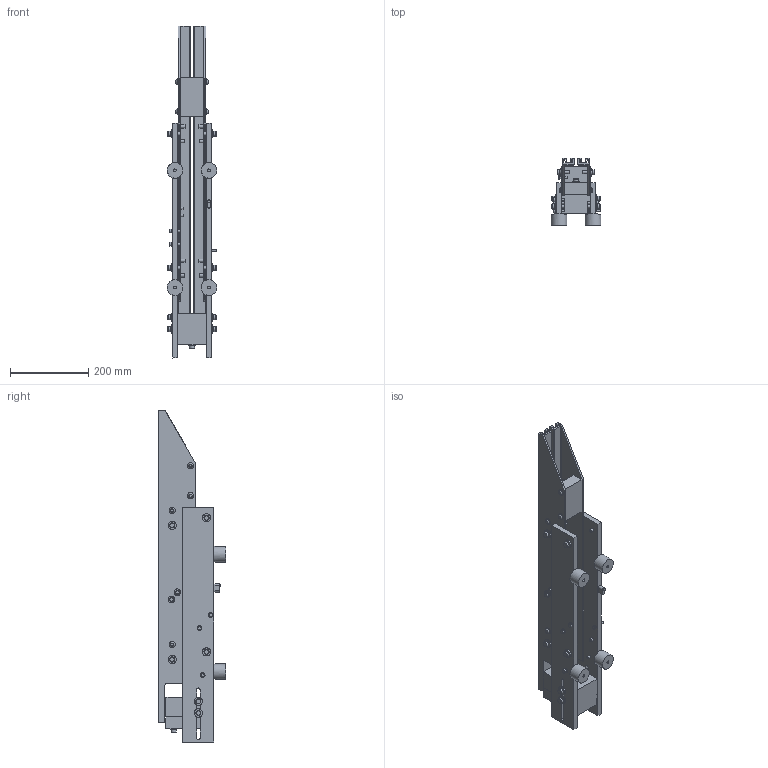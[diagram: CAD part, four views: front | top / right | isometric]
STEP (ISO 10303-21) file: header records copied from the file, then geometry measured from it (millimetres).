
FILE_DESCRIPTION(/* description */ ('STEP AP203'),/* implementation_level */ '2;1');
FILE_NAME(/* name */ 'Linear feeder SLL804-800 S CE 200V_50Hz',/* time_stamp */ '2024-09-29T17:54:35+02:00',/* author */ ('License CC BY-ND 4.0'),/* organization */ ('CADENAS'),/* preprocessor_version */ 'ST-DEVELOPER v19.3',/* originating_system */ 'PARTsolutions',/* authorisation */ ' ');
FILE_SCHEMA (('CONFIG_CONTROL_DESIGN'));
Length unit declared in the file: millimetre
Products named in the file (3): Linear feeder SLL804-800 S CE 200V/50Hz; Linear feeder SLL804-800 S CE 200V/50Hz_PART1; Linear feeder SLL804-800 S CE 200V/50Hz_PART2
Assembly tree (2 placements, depth 2):
  Linear feeder SLL804-800 S CE 200V/50Hz
    Linear feeder SLL804-800 S CE 200V/50Hz_PART1
    Linear feeder SLL804-800 S CE 200V/50Hz_PART2
Bounding box: 127.09 x 172.5 x 849.1 mm (x, y, z)
Volume: 3179719.4 mm3; surface area: 754671.5 mm2
Topology: 2 solids, 2 shells, 437 faces, 998 edges, 649 vertices
Faces by surface type: plane 228, cylinder 106, cone 93, sphere 8, torus 2
Full cylindrical faces by diameter (mm): 5 x2, 6 x6, 6.8 x4, 6.88 x1, 7 x1, 8 x12, 10 x6, 12 x4, 13 x16, 16 x12, 17 x2, 21 x12, 40 x4
Entity records: 10969 total; most frequent: DIRECTION 1954, CARTESIAN_POINT 1912, ORIENTED_EDGE 1534, AXIS2_PLACEMENT_3D 785, EDGE_CURVE 767, EDGE_LOOP 684, FACE_BOUND 684, VERTEX_POINT 565
